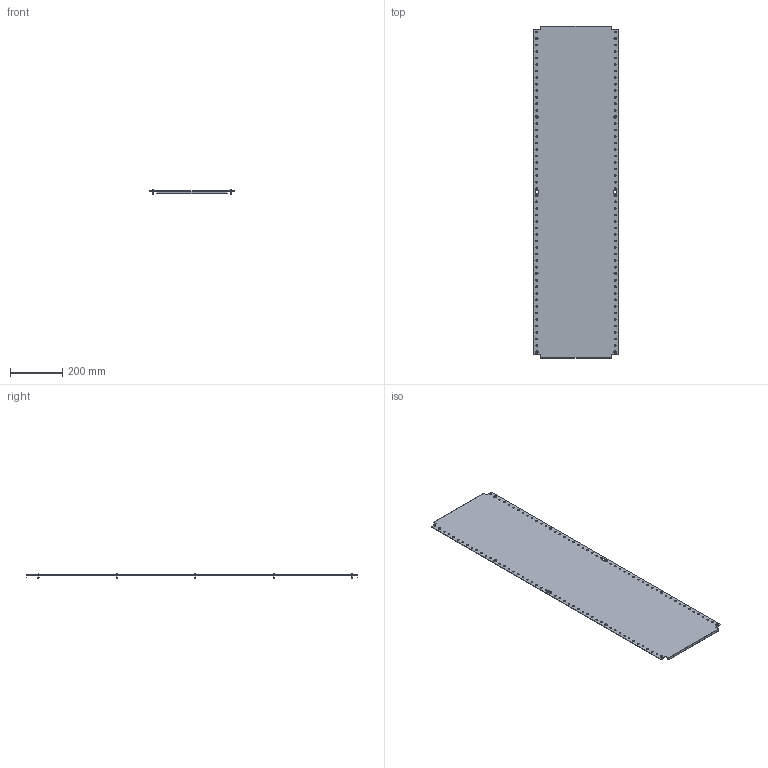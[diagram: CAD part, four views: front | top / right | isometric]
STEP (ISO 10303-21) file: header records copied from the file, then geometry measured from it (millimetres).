
FILE_DESCRIPTION (( 'STEP AP203' ), '1' );
FILE_NAME ('R6MP1440.STEP', '2025-03-28T12:07:11', ( '' ), ( '' ), 'SwSTEP 2.0', 'SolidWorks 2022', '' );
FILE_SCHEMA (( 'CONFIG_CONTROL_DESIGN' ));
Length unit declared in the file: millimetre
Products named in the file (3): M5x12 DIN 7500 C Torx Zinc_stright; R6MP1440; RB.3293.00.00.0_-10
Assembly tree (11 placements, depth 2):
  R6MP1440
    RB.3293.00.00.0_-10
    M5x12 DIN 7500 C Torx Zinc_stright  x10
Bounding box: 325 x 1270 x 15.56 mm (x, y, z)
Volume: 745808.1 mm3; surface area: 837841.6 mm2
Topology: 11 solids, 11 shells, 294 faces, 696 edges, 434 vertices
Faces by surface type: cylinder 124, plane 110, torus 20, cone 20, sphere 10, bspline 10
Full cylindrical faces by diameter (mm): 5 x10, 6.5 x100, 9.5 x10
Entity records: 5605 total; most frequent: CARTESIAN_POINT 962, DIRECTION 856, ORIENTED_EDGE 632, EDGE_LOOP 462, AXIS2_PLACEMENT_3D 384, EDGE_CURVE 316, VERTEX_POINT 278, FACE_OUTER_BOUND 256
